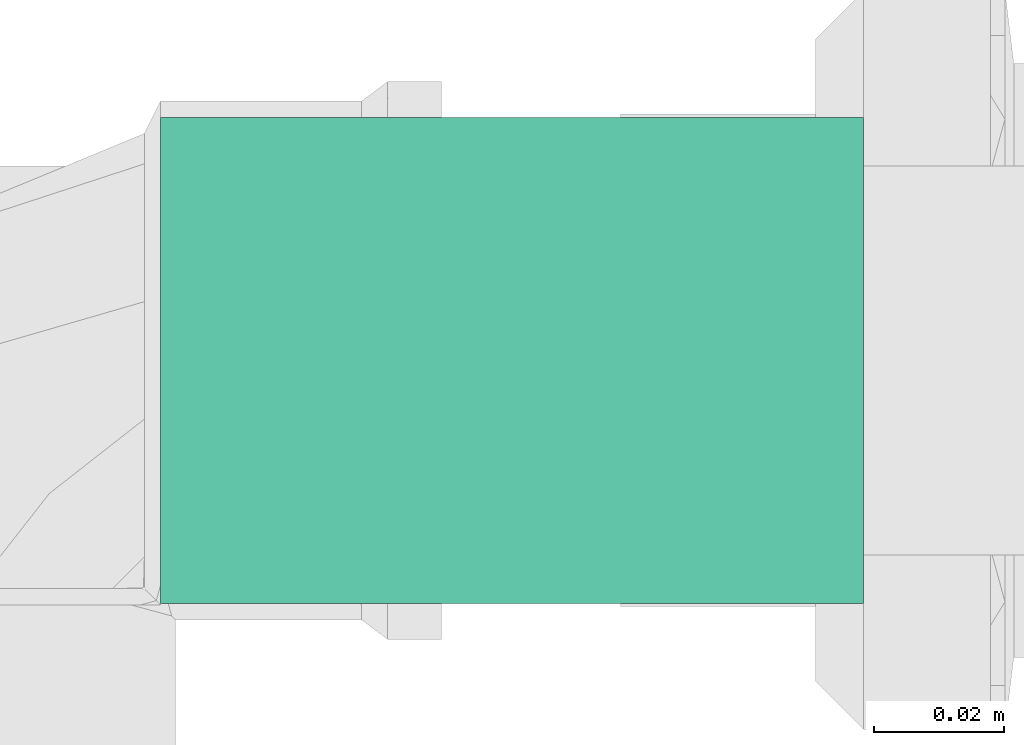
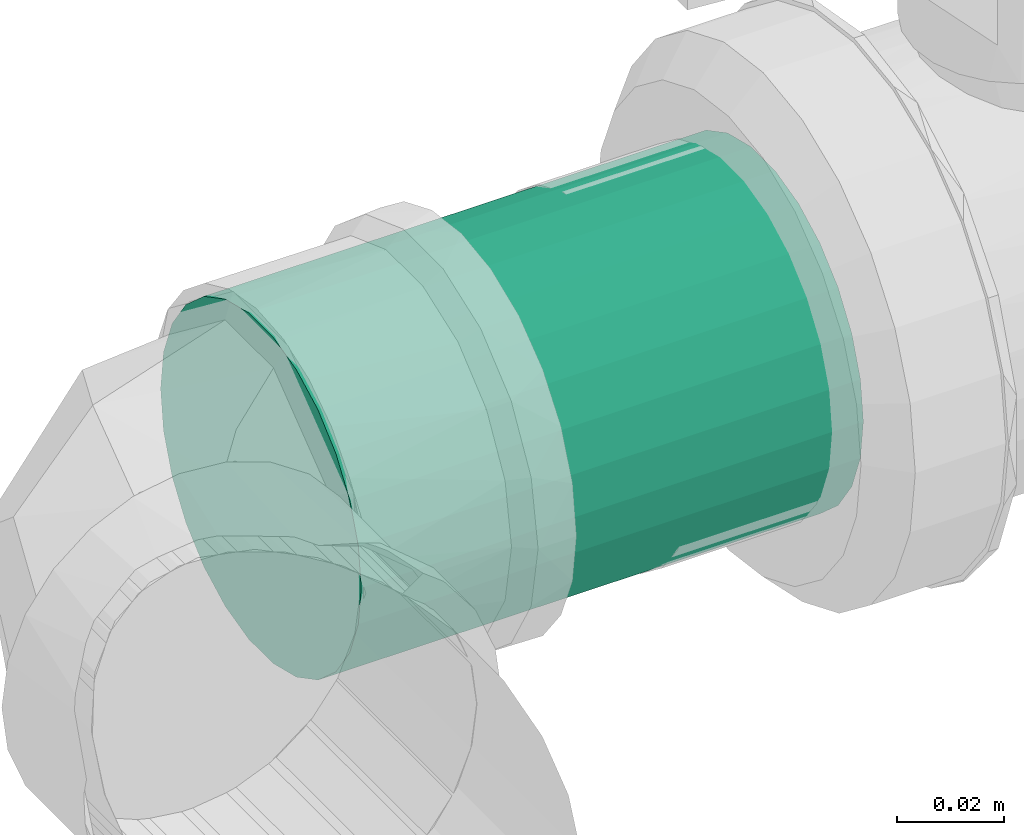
# One storey, part 62 of 166: 1 flow segment.
"""IFC2X3 building model written with IfcOpenShell, lengths in metres."""

from ifc_helpers import new_model, entity, si_unit, converted_unit, direction, frame, origin, origin_2d_with_axis, place, context, subcontext, project, spatial, circle, extrude, type_object, element, save


model = new_model("IFC2X3")

# Units and contexts
model_context = context("Model", 3, precision=1e-05, world=origin(), true_north=direction((6.123233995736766e-17, 1.0)))
body_context = subcontext(model_context, "Body", "Model", "MODEL_VIEW")
ifc_project = project(units=[si_unit("LENGTHUNIT", "METRE"), converted_unit("PLANEANGLEUNIT", "DEGREE", entity("IfcPlaneAngleMeasure", 0.017453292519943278), si_unit("PLANEANGLEUNIT", "RADIAN"), dimensions=[0, 0, 0, 0, 0, 0, 0]), si_unit("AREAUNIT", "SQUARE_METRE")], contexts=[model_context])

# Site, building, storey
site_placement = place(None, origin())
site = spatial("IfcSite", under=ifc_project, at=site_placement, Name="Default", CompositionType="ELEMENT")
building_placement = place(site_placement, origin())
building = spatial("IfcBuilding", under=site, at=building_placement, Name="CASA DE ACOLHIDA PARA IDOSOS", CompositionType="ELEMENT")
storey_placement = place(building_placement, frame((0.0, 0.0, -1.7499999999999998)))
storey = spatial("IfcBuildingStorey", under=building, at=storey_placement, Name="IMPLANTAÇÃO DRENAGEM", CompositionType="ELEMENT", Elevation=-1.7499999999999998)

# Flow segment
pipe_segment_type = type_object("IfcPipeSegmentType", Name="Tipos de tubos:AF_Tubo Branco Roscável", PredefinedType="NOTDEFINED")
flow_segment_placement = place(storey_placement, origin())
element("IfcFlowSegment", 1, at=flow_segment_placement, inside=storey, type_object=pipe_segment_type, Name="Tipos de tubos:AF_Tubo Branco Roscável", ObjectType="Tipos de tubos:AF_Tubo Branco Roscável", context=body_context, shape_type="SweptSolid", body=[
    extrude(circle(Radius=0.037500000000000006, at=origin_2d_with_axis()), frame((-64.6095805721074, 1.7406218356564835, 0.13343317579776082), z_axis=(1.0, 0.0, 0.0), x_axis=(0.0, 1.0, 0.0)), (0.0, 0.0, 1.0), 0.10839346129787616),
])

save(model, "model.ifc")
